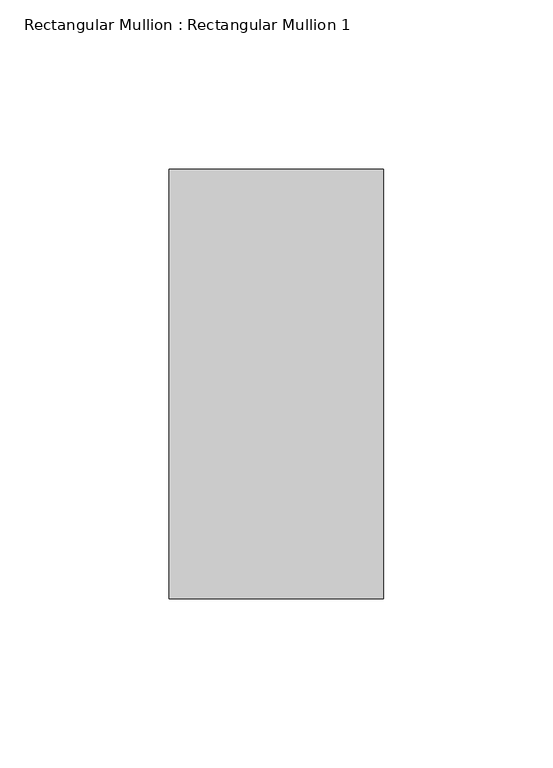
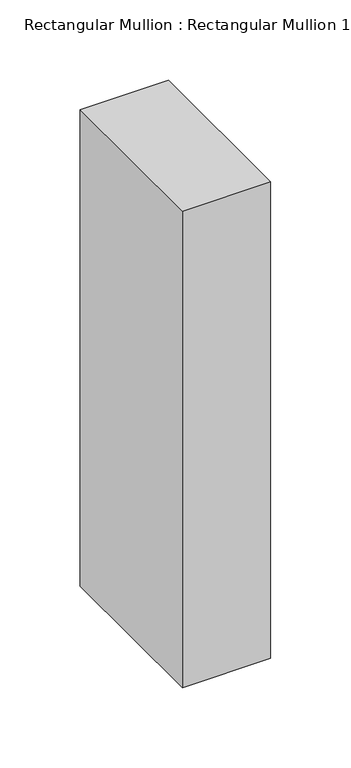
"""IFC4 building model written with IfcOpenShell, lengths in millimetres: member geometry, Rectangular Mullion : Rectangular Mullion 1."""

from ifc_helpers import new_model, si_unit, frame, origin, place, context, project, spatial, polyline, outline, extrude, source, transform, mapped, element, save


def rectangular_mullion_rectangular_mullion_1_031d7db2(model_context):
    return source(origin(), model_context, "Body", "SweptSolid", [
        extrude(outline(polyline([(31.75, 63.5), (31.75, -63.5), (-31.75, -63.5), (-31.75, 63.5), (31.75, 63.5)])), frame((0.0, 0.0, -361.6), z_axis=(0.0, 0.0, 1.0), x_axis=(1.0, 0.0, 0.0)), (0.0, 0.0, 1.0), 361.6),
    ])


if __name__ == "__main__":
    model = new_model("IFC4")
    model_context = context("Model", 3, world=origin())
    ifc_project = project(units=[si_unit("LENGTHUNIT", "METRE", prefix="MILLI")], contexts=[model_context])
    site = spatial("IfcSite", under=ifc_project)
    building = spatial("IfcBuilding", under=site)
    placement = place(None, origin())
    rectangular_mullion_rectangular_mullion_1_shape = rectangular_mullion_rectangular_mullion_1_031d7db2(model_context)
    element("IfcMember", 1, ObjectType="Rectangular Mullion : Rectangular Mullion 1", at=placement, inside=building, context=model_context, shape_type="MappedRepresentation", body=[
        mapped(rectangular_mullion_rectangular_mullion_1_shape, transform((0.0, 0.0, 0.0), x_axis=(1.0, 0.0, 0.0), y_axis=(0.0, 1.0, 0.0), z_axis=(0.0, 0.0, 1.0))),
    ])
    save(model, "model.ifc")
